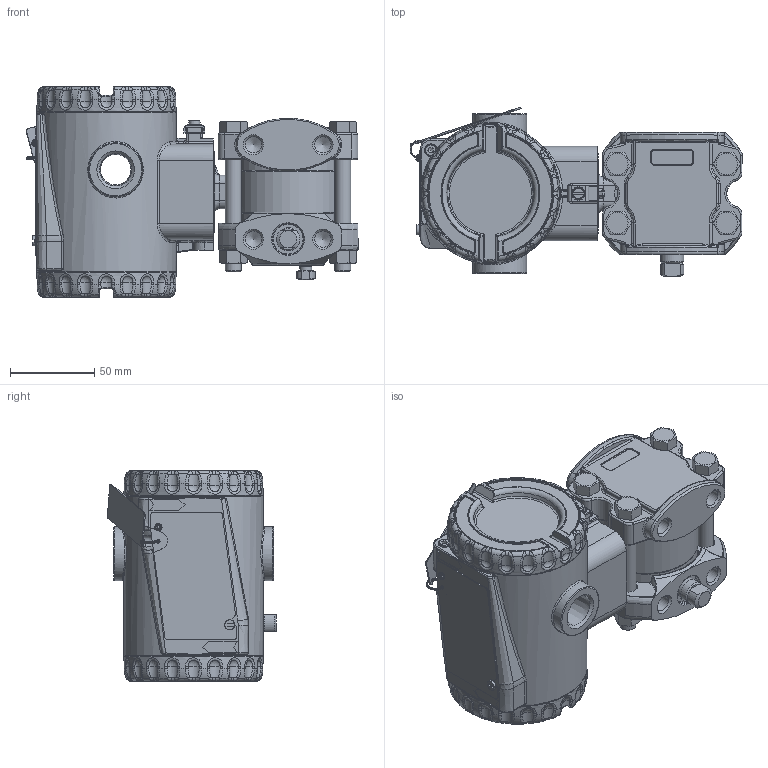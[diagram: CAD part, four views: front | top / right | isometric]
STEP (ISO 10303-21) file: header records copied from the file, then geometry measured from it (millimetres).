
FILE_DESCRIPTION(/* description */ (''),/* implementation_level */ '2;1');
FILE_NAME(/* name */ 'F:\Area\Desenvolvimento_2\Projects\Sensor\projetos\LD400-3d\dimensionais 3D clientes\LD400A4 1-4NPT Monel purga abaixo.stp',/* time_stamp */ '2023-02-01T17:43:03-03:00',/* author */ ('inventor02'),/* organization */ (''),/* preprocessor_version */ 'ST-DEVELOPER v17',/* originating_system */ 'Autodesk Inventor 2019',/* authorisation */ '');
FILE_SCHEMA (('CONFIG_CONTROL_DESIGN'));
Products named in the file (30): LD400A4 1-4NPT Monel purga abaixo; Carcaça 400 com tampas e plaqueta sem letras; 101-D-0845-05 carcaça LD400 sem letras; 101-B-3614-03-tampa 400 sem letras; Tampa visor 400 montada sem letras; 101-B-3612-05 tampa visor 400 sem letras; 101-A-6107; oring 2034; 00034775-0; WHW_250; DIN 915 - M6 x 10; Chapa aterramento externo; 201-A-1771-02 inserto terra recartilhado; AS 1969 - ST4,2; ISO 1207 - M4 x 8; ANSI B18.3.1M - M4x0,7 x 8; Subconjunto plaqueta 400; plaqueta 400 em branco; Parafuso da Plaqueta; Rebite da Plaqueta; 096-A-0169-03; 101-A-0502-01; manométrico FX4 monel purga abaixo; involucro fx4 apos a usinagem final; 081-C-0500-10 monel barra 7-16 purga M8; 096-C-0014-13 manom reforçado; bujao 1-4NPT; Sangria; Paraf. 3-8 x 16 UNC; Porca 3-8 x 16 UNC
Assembly tree (36 placements, depth 4):
  LD400A4 1-4NPT Monel purga abaixo
    Carcaça 400 com tampas e plaqueta sem letras
      101-D-0845-05 carcaça LD400 sem letras
      101-B-3614-03-tampa 400 sem letras
      Tampa visor 400 montada sem letras
        101-B-3612-05 tampa visor 400 sem letras
        101-A-6107
        oring 2034
        00034775-0
        WHW_250
      DIN 915 - M6 x 10
      Chapa aterramento externo
      201-A-1771-02 inserto terra recartilhado
      AS 1969 - ST4,2
      ISO 1207 - M4 x 8
      ANSI B18.3.1M - M4x0,7 x 8  x2
      Subconjunto plaqueta 400
        plaqueta 400 em branco
        Parafuso da Plaqueta
        Rebite da Plaqueta
        096-A-0169-03
        101-A-0502-01
    manométrico FX4 monel purga abaixo
      involucro fx4 apos a usinagem final
      081-C-0500-10 monel barra 7-16 purga M8
      096-C-0014-13 manom reforçado
      bujao 1-4NPT
      Sangria
      Paraf. 3-8 x 16 UNC  x4
      Porca 3-8 x 16 UNC  x4
Bounding box: 197.25 x 100.39 x 125 mm (x, y, z)
Volume: 639896.2 mm3; surface area: 235583 mm2
Topology: 32 solids, 32 shells, 2358 faces, 5796 edges, 3494 vertices
Faces by surface type: plane 619, cylinder 555, bspline 526, torus 397, cone 204, sphere 57
Full cylindrical faces by diameter (mm): 2 x2, 2.1 x1, 2.2 x1, 2.459 x3, 2.7 x1, 3 x3, 3.242 x3, 3.571 x1, 4 x4, 4.3 x2, 4.4 x1, 4.917 x1, 5 x2, 5.5 x1, 6 x2, 6.1 x2, 6.2 x1, 6.647 x1, 7 x3, 7.6 x2, 7.798 x4, 8 x1, 9.525 x4, 9.728 x8, 10.5 x8, 10.719 x2, 12 x1, 13.8 x1, 14 x1, 18.3 x2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
Entity records: 87282 total; most frequent: CARTESIAN_POINT 34606, ORIENTED_EDGE 11062, DIRECTION 10617, EDGE_CURVE 5531, AXIS2_PLACEMENT_3D 4498, VERTEX_POINT 3360, CIRCLE 2608, EDGE_LOOP 2371
